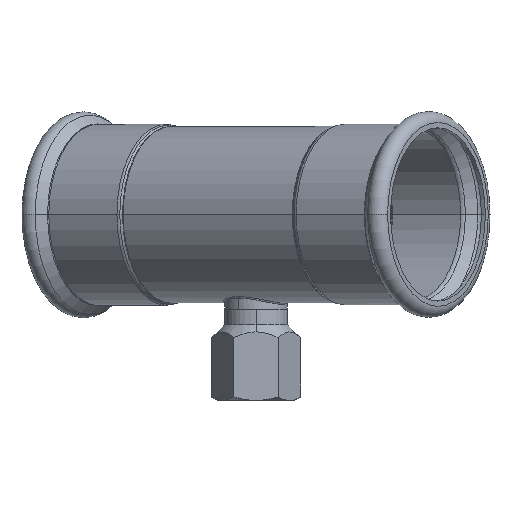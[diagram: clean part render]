
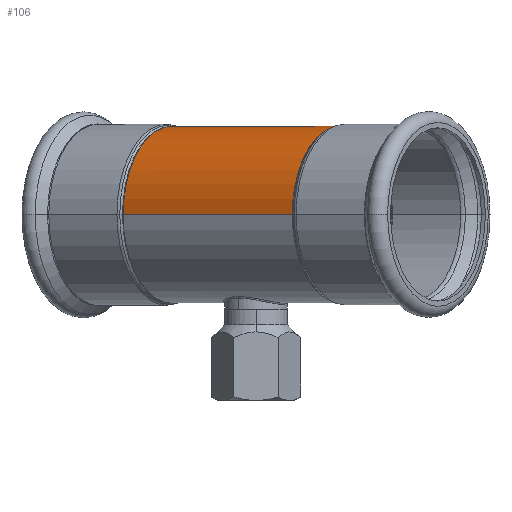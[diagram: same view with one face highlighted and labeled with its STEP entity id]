
A CAD part, top view. The second image highlights one B-rep face of the part: STEP entity #106.
In plain terms, the highlighted cylindrical face has radius 28 mm (diameter 56 mm), a partial arc.
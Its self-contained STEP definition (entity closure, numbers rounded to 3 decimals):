
#47 = CARTESIAN_POINT ( 'NONE',  ( 27.146, 0., 0. ) ) ;
#56 = ORIENTED_EDGE ( 'NONE', *, *, #2344, .T. ) ;
#71 = DIRECTION ( 'NONE',  ( 0., 0., 1. ) ) ;
#106 = ADVANCED_FACE ( 'NONE', ( #397 ), #3314, .T. ) ;
#142 = CARTESIAN_POINT ( 'NONE',  ( -32.06, 0., 28. ) ) ;
#397 = FACE_OUTER_BOUND ( 'NONE', #4084, .T. ) ;
#722 = VECTOR ( 'NONE', #1707, 1000. ) ;
#813 = CARTESIAN_POINT ( 'NONE',  ( 32.06, 0., -28. ) ) ;
#915 = EDGE_CURVE ( 'NONE', #1067, #3258, #2110, .T. ) ;
#916 = VERTEX_POINT ( 'NONE', #142 ) ;
#964 = CIRCLE ( 'NONE', #3811, 28. ) ;
#1067 = VERTEX_POINT ( 'NONE', #813 ) ;
#1142 = CARTESIAN_POINT ( 'NONE',  ( 27.146, 0., -28. ) ) ;
#1328 = DIRECTION ( 'NONE',  ( 0., 0., 1. ) ) ;
#1344 = CARTESIAN_POINT ( 'NONE',  ( -32.06, 0., 0. ) ) ;
#1603 = CARTESIAN_POINT ( 'NONE',  ( 32.06, 0., 0. ) ) ;
#1656 = DIRECTION ( 'NONE',  ( -1., 0., 0. ) ) ;
#1707 = DIRECTION ( 'NONE',  ( -1., 0., 0. ) ) ;
#1807 = VECTOR ( 'NONE', #2927, 1000. ) ;
#1897 = VERTEX_POINT ( 'NONE', #2663 ) ;
#1980 = CARTESIAN_POINT ( 'NONE',  ( 27.146, 0., 28. ) ) ;
#2110 = LINE ( 'NONE', #1142, #722 ) ;
#2267 = DIRECTION ( 'NONE',  ( -1., 0., 0. ) ) ;
#2344 = EDGE_CURVE ( 'NONE', #1067, #1897, #964, .T. ) ;
#2501 = LINE ( 'NONE', #1980, #1807 ) ;
#2520 = EDGE_CURVE ( 'NONE', #3258, #916, #3497, .T. ) ;
#2539 = EDGE_CURVE ( 'NONE', #1897, #916, #2501, .T. ) ;
#2548 = DIRECTION ( 'NONE',  ( -1., 0., 0. ) ) ;
#2626 = ORIENTED_EDGE ( 'NONE', *, *, #2539, .T. ) ;
#2663 = CARTESIAN_POINT ( 'NONE',  ( 32.06, 0., 28. ) ) ;
#2927 = DIRECTION ( 'NONE',  ( -1., 0., 0. ) ) ;
#3183 = ORIENTED_EDGE ( 'NONE', *, *, #2520, .F. ) ;
#3221 = AXIS2_PLACEMENT_3D ( 'NONE', #1344, #1656, #1328 ) ;
#3258 = VERTEX_POINT ( 'NONE', #3441 ) ;
#3314 = CYLINDRICAL_SURFACE ( 'NONE', #4089, 28. ) ;
#3441 = CARTESIAN_POINT ( 'NONE',  ( -32.06, 0., -28. ) ) ;
#3497 = CIRCLE ( 'NONE', #3221, 28. ) ;
#3811 = AXIS2_PLACEMENT_3D ( 'NONE', #1603, #2548, #71 ) ;
#3821 = DIRECTION ( 'NONE',  ( 0., 0., 1. ) ) ;
#3986 = ORIENTED_EDGE ( 'NONE', *, *, #915, .F. ) ;
#4084 = EDGE_LOOP ( 'NONE', ( #3986, #56, #2626, #3183 ) ) ;
#4089 = AXIS2_PLACEMENT_3D ( 'NONE', #47, #2267, #3821 ) ;
